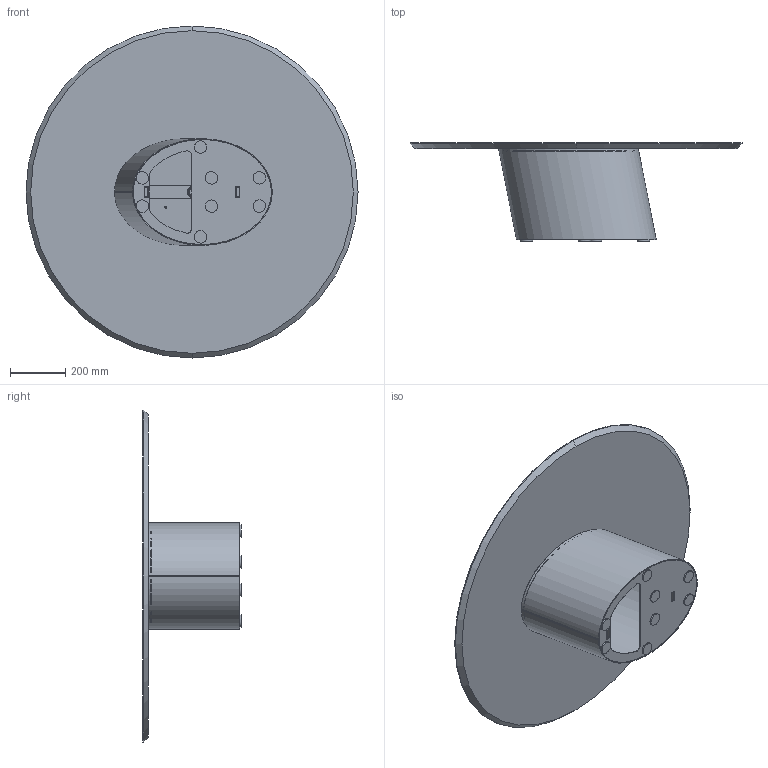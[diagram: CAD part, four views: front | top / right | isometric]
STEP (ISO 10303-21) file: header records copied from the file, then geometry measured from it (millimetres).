
FILE_DESCRIPTION (( 'STEP AP203' ), '1' );
FILE_NAME ('D114W.STEP', '2024-08-07T11:21:56', ( '' ), ( '' ), 'SwSTEP 2.0', 'SolidWorks 2022', '' );
FILE_SCHEMA (( 'CONFIG_CONTROL_DESIGN' ));
Length unit declared in the file: millimetre
Products named in the file (4): Parte2^Dxxxx-00-DORADO LOW; W1XCMXX-00-Piani Rotondi legno_D.1200; Parte matrice basamento DORADO LOW H350_Default<A macchina>; D114W
Assembly tree (10 placements, depth 2):
  D114W
    Parte matrice basamento DORADO LOW H350_Default<A macchina>
    Parte2^Dxxxx-00-DORADO LOW  x8
    W1XCMXX-00-Piani Rotondi legno_D.1200
Bounding box: 1200 x 355 x 1200 mm (x, y, z)
Volume: 24013732.9 mm3; surface area: 3758224.6 mm2
Topology: 16 solids, 16 shells, 185 faces, 447 edges, 290 vertices
Faces by surface type: plane 82, cylinder 73, cone 16, bspline 14
Entity records: 8335 total; most frequent: CARTESIAN_POINT 3911, ORIENTED_EDGE 794, DIRECTION 781, EDGE_CURVE 397, AXIS2_PLACEMENT_3D 280, VERTEX_POINT 262, VECTOR 221, LINE 221
